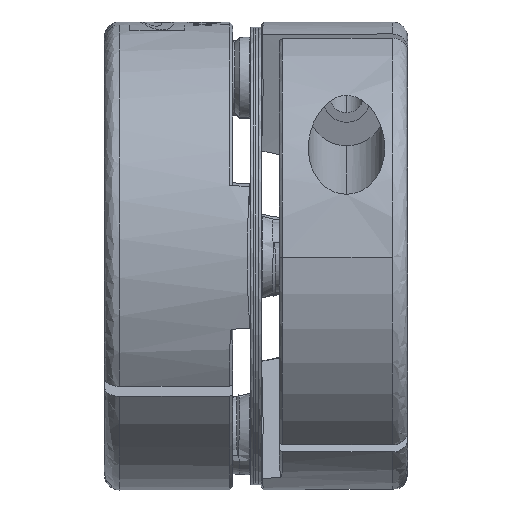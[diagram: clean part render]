
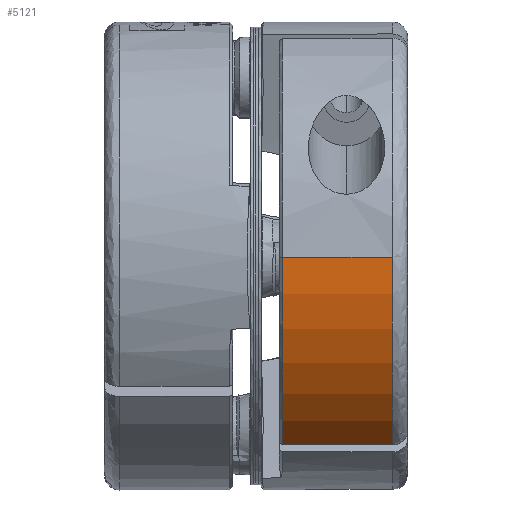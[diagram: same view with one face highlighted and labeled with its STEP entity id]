
A CAD part, left-side view. The second image highlights one B-rep face of the part: STEP entity #5121.
In plain terms, the highlighted cylindrical face has radius 23 mm (diameter 46 mm), a partial arc.
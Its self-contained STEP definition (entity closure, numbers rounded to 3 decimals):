
#4865 = EDGE_CURVE ( 'NONE', #4880, #4866, #8261, .T. ) ;
#4866 = VERTEX_POINT ( 'NONE', #8257 ) ;
#4877 = VERTEX_POINT ( 'NONE', #8304 ) ;
#4879 = EDGE_CURVE ( 'NONE', #4877, #4880, #8303, .T. ) ;
#4880 = VERTEX_POINT ( 'NONE', #8298 ) ;
#5097 = ORIENTED_EDGE ( 'NONE', *, *, #4879, .F. ) ;
#5098 = ORIENTED_EDGE ( 'NONE', *, *, #5113, .F. ) ;
#5099 = ORIENTED_EDGE ( 'NONE', *, *, #5100, .T. ) ;
#5100 = EDGE_CURVE ( 'NONE', #5111, #4866, #8616, .T. ) ;
#5111 = VERTEX_POINT ( 'NONE', #9063 ) ;
#5113 = EDGE_CURVE ( 'NONE', #5111, #4877, #9062, .T. ) ;
#5121 = ADVANCED_FACE ( 'NONE', ( #9213 ), #9212, .T. ) ;
#5122 = EDGE_LOOP ( 'NONE', ( #5123, #5097, #5098, #5099 ) ) ;
#5123 = ORIENTED_EDGE ( 'NONE', *, *, #4865, .F. ) ;
#7269 = AXIS2_PLACEMENT_3D ( 'NONE', #7672, #8807, #8806 ) ;
#7672 = CARTESIAN_POINT ( 'NONE',  ( -6.114, -6.313, 2.088 ) ) ;
#8257 = CARTESIAN_POINT ( 'NONE',  ( -19.677, -6.313, -16.488 ) ) ;
#8258 = DIRECTION ( 'NONE',  ( 0., 1., 0. ) ) ;
#8259 = VECTOR ( 'NONE', #8258, 1000. ) ;
#8260 = CARTESIAN_POINT ( 'NONE',  ( -19.677, -6.013, -16.488 ) ) ;
#8261 = LINE ( 'NONE', #8260, #8259 ) ;
#8298 = CARTESIAN_POINT ( 'NONE',  ( -19.677, -17.113, -16.488 ) ) ;
#8299 = DIRECTION ( 'NONE',  ( 0., 0., 1. ) ) ;
#8300 = DIRECTION ( 'NONE',  ( 0., -1., 0. ) ) ;
#8301 = CARTESIAN_POINT ( 'NONE',  ( -6.114, -17.113, 2.088 ) ) ;
#8302 = AXIS2_PLACEMENT_3D ( 'NONE', #8301, #8300, #8299 ) ;
#8303 = CIRCLE ( 'NONE', #8302, 23. ) ;
#8304 = CARTESIAN_POINT ( 'NONE',  ( -29.114, -17.113, 1.943 ) ) ;
#8616 = CIRCLE ( 'NONE', #7269, 23. ) ;
#8806 = DIRECTION ( 'NONE',  ( 1., 0., 0. ) ) ;
#8807 = DIRECTION ( 'NONE',  ( 0., -1., 0. ) ) ;
#9059 = DIRECTION ( 'NONE',  ( 0., -1., 0. ) ) ;
#9060 = VECTOR ( 'NONE', #9059, 1000. ) ;
#9061 = CARTESIAN_POINT ( 'NONE',  ( -29.114, -4.213, 1.943 ) ) ;
#9062 = LINE ( 'NONE', #9061, #9060 ) ;
#9063 = CARTESIAN_POINT ( 'NONE',  ( -29.114, -6.313, 1.943 ) ) ;
#9212 = CYLINDRICAL_SURFACE ( 'NONE', #9290, 23. ) ;
#9213 = FACE_OUTER_BOUND ( 'NONE', #5122, .T. ) ;
#9287 = DIRECTION ( 'NONE',  ( 1., 0., 0. ) ) ;
#9288 = DIRECTION ( 'NONE',  ( 0., -1., 0. ) ) ;
#9289 = CARTESIAN_POINT ( 'NONE',  ( -6.114, -4.213, 2.088 ) ) ;
#9290 = AXIS2_PLACEMENT_3D ( 'NONE', #9289, #9288, #9287 ) ;
